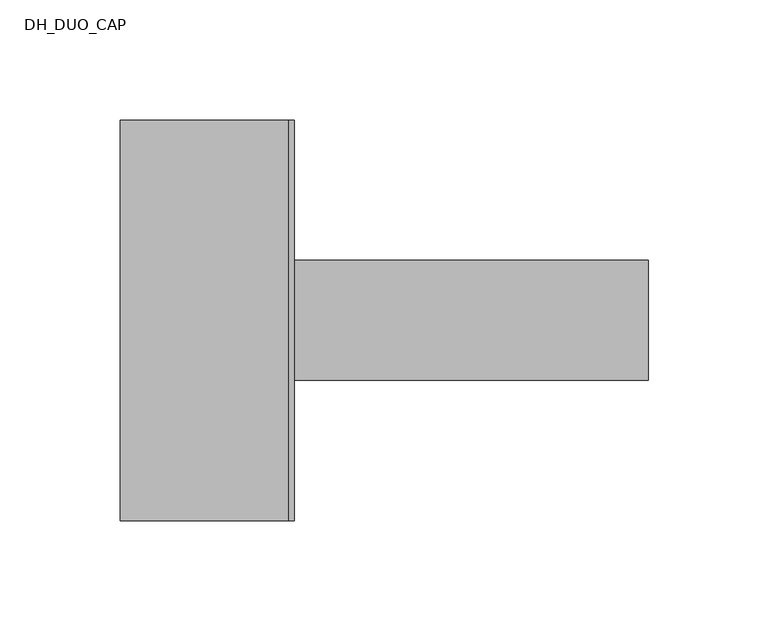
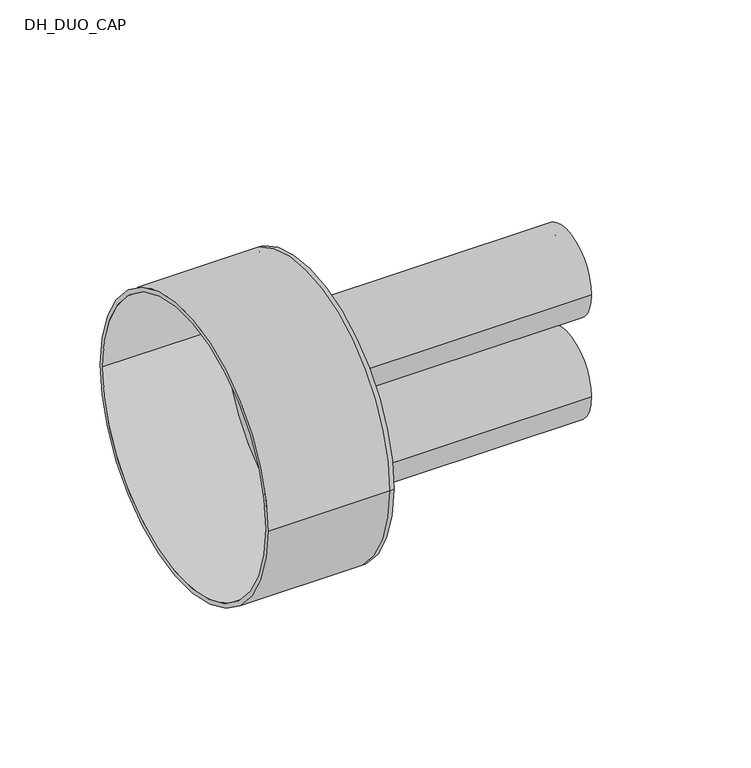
"""IFC4 building model written with IfcOpenShell, lengths in millimetres: pipe fitting geometry, DH_DUO_CAP : RAUTHERMEX DUO 7.4 Heating - Solid Cap."""

from ifc_helpers import new_model, si_unit, point, frame, frame_2d, origin, place, context, project, spatial, polyline, circle_curve, trimmed, segment, composite_curve, outline, extrude, source, transform, mapped, element, save
from ifc_brep_helpers import plane_surface, cylinder_surface, revolved_surface, advanced_brep


def dh_duo_cap_99a229fd(model_context):
    return source(origin(), model_context, "Body", "SolidModel", [
        extrude(outline(composite_curve([segment(trimmed(circle_curve(frame_2d((0.0, -31.0)), 25.0), [point((-25.0, -31.0))], [point((25.0, -31.0))], False, "CARTESIAN"), True, "CONTINUOUS"), segment(trimmed(circle_curve(frame_2d((0.0, -31.0)), 25.0), [point((25.0, -31.0))], [point((-25.0, -31.0))], False, "CARTESIAN"), True, "CONTINUOUS")], self_intersect=False), holes=[composite_curve([segment(trimmed(circle_curve(frame_2d((0.0, -31.0)), 18.1), [point((-18.1, -31.0))], [point((18.1, -31.0))], True, "CARTESIAN"), True, "CONTINUOUS"), segment(trimmed(circle_curve(frame_2d((0.0, -31.0)), 18.1), [point((18.1, -31.0))], [point((-18.1, -31.0))], True, "CARTESIAN"), True, "CONTINUOUS")], self_intersect=False)]), frame((0.0, 0.0, 0.0), z_axis=(1.0, 0.0, 0.0), x_axis=(0.0, 1.0, 0.0)), (0.0, 0.0, 1.0), 150.0),
        extrude(outline(composite_curve([segment(trimmed(circle_curve(frame_2d((0.0, 31.0)), 25.0), [point((-25.0, 31.0))], [point((25.0, 31.0))], False, "CARTESIAN"), True, "CONTINUOUS"), segment(trimmed(circle_curve(frame_2d((0.0, 31.0)), 25.0), [point((25.0, 31.0))], [point((-25.0, 31.0))], False, "CARTESIAN"), True, "CONTINUOUS")], self_intersect=False), holes=[composite_curve([segment(trimmed(circle_curve(frame_2d((0.0, 31.0)), 18.1), [point((-18.1, 31.0))], [point((18.1, 31.0))], True, "CARTESIAN"), True, "CONTINUOUS"), segment(trimmed(circle_curve(frame_2d((0.0, 31.0)), 18.1), [point((18.1, 31.0))], [point((-18.1, 31.0))], True, "CARTESIAN"), True, "CONTINUOUS")], self_intersect=False)]), frame((0.0, 0.0, 0.0), z_axis=(1.0, 0.0, 0.0), x_axis=(0.0, 1.0, 0.0)), (0.0, 0.0, 1.0), 150.0),
        advanced_brep(
        [(-70.0, -83.5, 0.0), (-70.0, 83.5, 0.0), (-70.0, -81.0, 0.0), (-70.0, 81.0, 0.0), (0.0, -81.0, 0.0), (0.0, 81.0, 0.0), (0.0, -83.5, 0.0), (0.0, 83.5, 0.0), (0.0, 25.0, 31.0), (0.0, -25.0, 31.0), (0.0, 25.0, -31.0), (0.0, -25.0, -31.0), (2.5, -83.5, 0.0), (2.5, 83.5, 0.0), (2.5, -25.0, 31.0), (2.5, 25.0, 31.0), (2.5, -25.0, -31.0), (2.5, 25.0, -31.0)],
        [
            (0, 1, circle_curve(frame((-70.0, 0.0, 0.0), z_axis=(-1.0, 0.0, 0.0), x_axis=(0.0, 1.0, 0.0)), 83.5)),
            (1, 0, circle_curve(frame((-70.0, 0.0, 0.0), z_axis=(-1.0, 0.0, 0.0), x_axis=(0.0, 1.0, 0.0)), 83.5)),
            (2, 3, circle_curve(frame((-70.0, 0.0, 0.0), z_axis=(1.0, 0.0, 0.0), x_axis=(0.0, 1.0, 0.0)), 81.0)),
            (3, 2, circle_curve(frame((-70.0, 0.0, 0.0), z_axis=(1.0, 0.0, 0.0), x_axis=(0.0, 1.0, 0.0)), 81.0)),
            (2, 4),
            (4, 5, circle_curve(frame((0.0, 0.0, 0.0), z_axis=(1.0, 0.0, 0.0), x_axis=(0.0, 1.0, 0.0)), 81.0)),
            (5, 3),
            (5, 4, circle_curve(frame((0.0, 0.0, 0.0), z_axis=(1.0, 0.0, 0.0), x_axis=(0.0, 1.0, 0.0)), 81.0)),
            (0, 6),
            (6, 7, circle_curve(frame((0.0, 0.0, 0.0), z_axis=(-1.0, 0.0, 0.0), x_axis=(0.0, 1.0, 0.0)), 83.5)),
            (7, 1),
            (7, 6, circle_curve(frame((0.0, 0.0, 0.0), z_axis=(-1.0, 0.0, 0.0), x_axis=(0.0, 1.0, 0.0)), 83.5)),
            (8, 9, circle_curve(frame((0.0, 0.0, 31.0), z_axis=(1.0, 0.0, 0.0), x_axis=(0.0, 1.0, 0.0)), 25.0)),
            (9, 8, circle_curve(frame((0.0, 0.0, 31.0), z_axis=(1.0, 0.0, 0.0), x_axis=(0.0, 1.0, 0.0)), 25.0)),
            (10, 11, circle_curve(frame((0.0, 0.0, -31.0), z_axis=(1.0, 0.0, 0.0), x_axis=(0.0, 1.0, 0.0)), 25.0)),
            (11, 10, circle_curve(frame((0.0, 0.0, -31.0), z_axis=(1.0, 0.0, 0.0), x_axis=(0.0, 1.0, 0.0)), 25.0)),
            (12, 13, circle_curve(frame((2.5, 0.0, 0.0), z_axis=(1.0, 0.0, 0.0), x_axis=(0.0, 1.0, 0.0)), 83.5)),
            (13, 12, circle_curve(frame((2.5, 0.0, 0.0), z_axis=(1.0, 0.0, 0.0), x_axis=(0.0, 1.0, 0.0)), 83.5)),
            (14, 15, circle_curve(frame((2.5, 0.0, 31.0), z_axis=(-1.0, 0.0, 0.0), x_axis=(0.0, 1.0, 0.0)), 25.0)),
            (15, 14, circle_curve(frame((2.5, 0.0, 31.0), z_axis=(-1.0, 0.0, 0.0), x_axis=(0.0, 1.0, 0.0)), 25.0)),
            (16, 17, circle_curve(frame((2.5, 0.0, -31.0), z_axis=(-1.0, 0.0, 0.0), x_axis=(0.0, 1.0, 0.0)), 25.0)),
            (17, 16, circle_curve(frame((2.5, 0.0, -31.0), z_axis=(-1.0, 0.0, 0.0), x_axis=(0.0, 1.0, 0.0)), 25.0)),
            (13, 7),
            (6, 12),
            (8, 15),
            (14, 9),
            (10, 17),
            (16, 11),
        ],
        [
            plane_surface(frame((-70.0, 0.0, 0.0), z_axis=(-1.0, 0.0, 0.0), x_axis=(0.0, 0.0, 1.0))),
            revolved_surface(polyline([(0.0, 81.0, 0.0), (-70.0, 81.0, 0.0)]), (-70.0, 0.0, 0.0), (1.0, 0.0, 0.0)),
            cylinder_surface(frame((-70.0, 0.0, 0.0), z_axis=(-1.0, 0.0, 0.0), x_axis=(0.0, 1.0, 0.0)), 83.5),
            plane_surface(frame((0.0, 0.0, 0.0), z_axis=(-1.0, 0.0, 0.0), x_axis=(0.0, 0.0, 1.0))),
            plane_surface(frame((2.5, 0.0, 0.0), z_axis=(1.0, 0.0, 0.0), x_axis=(0.0, 0.0, 1.0))),
            cylinder_surface(frame((0.0, 0.0, 0.0), z_axis=(-1.0, 0.0, 0.0), x_axis=(0.0, 1.0, 0.0)), 83.5),
            revolved_surface(polyline([(0.0, 25.0, 31.0), (2.5, 25.0, 31.0)]), (0.0, 0.0, 31.0), (-1.0, 0.0, 0.0)),
            revolved_surface(polyline([(0.0, 25.0, -31.0), (2.5, 25.0, -31.0)]), (0.0, 0.0, -31.0), (-1.0, 0.0, 0.0)),
        ],
        [
            (0, [[1, 2], [3, 4]]),
            (1, [[-3, 5, 6, 7]]),
            (1, [[-4, -7, 8, -5]]),
            (2, [[-1, 9, 10, 11]]),
            (2, [[-2, -11, 12, -9]]),
            (3, [[-6, -8], [13, 14], [15, 16]]),
            (4, [[17, 18], [19, 20], [21, 22]]),
            (5, [[-18, 23, -10, 24]]),
            (5, [[-17, -24, -12, -23]]),
            (6, [[25, -19, 26, -13]]),
            (6, [[-25, -14, -26, -20]]),
            (7, [[27, -21, 28, -15]]),
            (7, [[-27, -16, -28, -22]]),
        ],
    ),
    ])


if __name__ == "__main__":
    model = new_model("IFC4")
    model_context = context("Model", 3, world=origin())
    ifc_project = project(units=[si_unit("LENGTHUNIT", "METRE", prefix="MILLI")], contexts=[model_context])
    site = spatial("IfcSite", under=ifc_project)
    building = spatial("IfcBuilding", under=site)
    placement = place(None, origin())
    dh_duo_cap_shape = dh_duo_cap_99a229fd(model_context)
    element("IfcPipeFitting", 1, ObjectType="DH_DUO_CAP : RAUTHERMEX DUO 7.4 Heating - Solid Cap", at=placement, inside=building, context=model_context, shape_type="MappedRepresentation", body=[
        mapped(dh_duo_cap_shape, transform((0.0, 0.0, 0.0), x_axis=(1.0, 0.0, 0.0), y_axis=(0.0, 1.0, 0.0), z_axis=(0.0, 0.0, 1.0))),
    ])
    save(model, "model.ifc")
